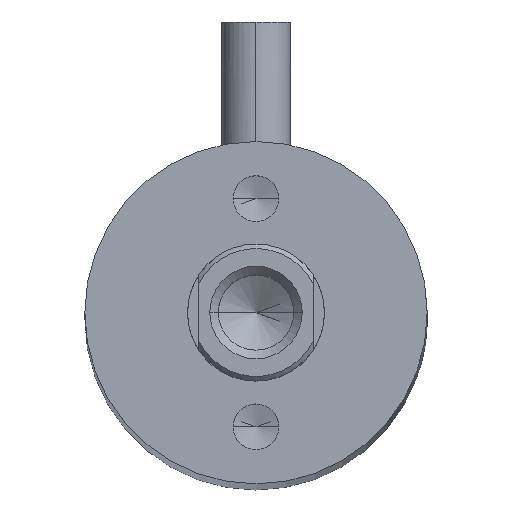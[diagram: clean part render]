
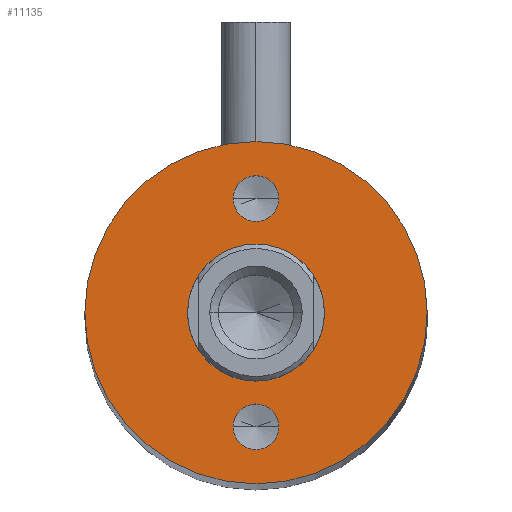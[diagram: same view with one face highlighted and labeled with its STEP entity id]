
A CAD part, top view. The second image highlights one B-rep face of the part: STEP entity #11135.
In plain terms, the highlighted planar face has unit normal (0, 0, 1).
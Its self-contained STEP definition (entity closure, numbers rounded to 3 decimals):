
#532 = ORIENTED_EDGE ( 'NONE', *, *, #24710, .T. ) ;
#1341 = CIRCLE ( 'NONE', #43665, 7.5 ) ;
#1565 = ORIENTED_EDGE ( 'NONE', *, *, #18459, .F. ) ;
#1574 = CIRCLE ( 'NONE', #14354, 1. ) ;
#2236 = EDGE_CURVE ( 'NONE', #5143, #49889, #16690, .T. ) ;
#3416 = DIRECTION ( 'NONE',  ( 0., 0., 1. ) ) ;
#4497 = CIRCLE ( 'NONE', #37046, 1. ) ;
#5143 = VERTEX_POINT ( 'NONE', #5696 ) ;
#5696 = CARTESIAN_POINT ( 'NONE',  ( -1., -5., 154.6 ) ) ;
#6661 = DIRECTION ( 'NONE',  ( 0., 0., 1. ) ) ;
#6890 = CARTESIAN_POINT ( 'NONE',  ( 0., 0., 154.6 ) ) ;
#8428 = VERTEX_POINT ( 'NONE', #13628 ) ;
#9244 = AXIS2_PLACEMENT_3D ( 'NONE', #31267, #15723, #23678 ) ;
#9525 = VERTEX_POINT ( 'NONE', #45778 ) ;
#10023 = ORIENTED_EDGE ( 'NONE', *, *, #39658, .T. ) ;
#10366 = FACE_OUTER_BOUND ( 'NONE', #38586, .T. ) ;
#11135 = ADVANCED_FACE ( 'NONE', ( #51199, #31326, #48722, #10366 ), #42815, .T. ) ;
#11192 = CARTESIAN_POINT ( 'NONE',  ( 0., 0., 154.6 ) ) ;
#11240 = CARTESIAN_POINT ( 'NONE',  ( -1., 5., 154.6 ) ) ;
#11960 = EDGE_LOOP ( 'NONE', ( #48771, #37679 ) ) ;
#13155 = EDGE_CURVE ( 'NONE', #9525, #8428, #39996, .T. ) ;
#13628 = CARTESIAN_POINT ( 'NONE',  ( 3., 0., 154.6 ) ) ;
#14354 = AXIS2_PLACEMENT_3D ( 'NONE', #27547, #27207, #23568 ) ;
#15181 = DIRECTION ( 'NONE',  ( 0., 0., 1. ) ) ;
#15723 = DIRECTION ( 'NONE',  ( 0., 0., 1. ) ) ;
#16508 = VERTEX_POINT ( 'NONE', #11240 ) ;
#16679 = CARTESIAN_POINT ( 'NONE',  ( 0., -5., 154.6 ) ) ;
#16690 = CIRCLE ( 'NONE', #34087, 1. ) ;
#17592 = DIRECTION ( 'NONE',  ( 1., 0., 0. ) ) ;
#18342 = CARTESIAN_POINT ( 'NONE',  ( -7.5, 0., 154.6 ) ) ;
#18392 = CARTESIAN_POINT ( 'NONE',  ( 0., -5., 154.6 ) ) ;
#18459 = EDGE_CURVE ( 'NONE', #16508, #33238, #1574, .T. ) ;
#18819 = DIRECTION ( 'NONE',  ( 0., 0., 1. ) ) ;
#19235 = AXIS2_PLACEMENT_3D ( 'NONE', #37472, #25905, #17592 ) ;
#20623 = DIRECTION ( 'NONE',  ( 0., 0., 1. ) ) ;
#21300 = ORIENTED_EDGE ( 'NONE', *, *, #13155, .F. ) ;
#22591 = DIRECTION ( 'NONE',  ( 1., 0., 0. ) ) ;
#22960 = CIRCLE ( 'NONE', #9244, 1. ) ;
#23568 = DIRECTION ( 'NONE',  ( 1., 0., 0. ) ) ;
#23659 = ORIENTED_EDGE ( 'NONE', *, *, #45142, .F. ) ;
#23678 = DIRECTION ( 'NONE',  ( 1., 0., 0. ) ) ;
#24710 = EDGE_CURVE ( 'NONE', #28201, #28193, #32970, .T. ) ;
#25277 = ORIENTED_EDGE ( 'NONE', *, *, #37458, .F. ) ;
#25905 = DIRECTION ( 'NONE',  ( 0., 0., 1. ) ) ;
#26212 = AXIS2_PLACEMENT_3D ( 'NONE', #50167, #18819, #38726 ) ;
#27207 = DIRECTION ( 'NONE',  ( 0., 0., 1. ) ) ;
#27547 = CARTESIAN_POINT ( 'NONE',  ( 0., 5., 154.6 ) ) ;
#28193 = VERTEX_POINT ( 'NONE', #18342 ) ;
#28201 = VERTEX_POINT ( 'NONE', #51043 ) ;
#30089 = EDGE_LOOP ( 'NONE', ( #21300, #23659 ) ) ;
#31267 = CARTESIAN_POINT ( 'NONE',  ( 0., 5., 154.6 ) ) ;
#31326 = FACE_BOUND ( 'NONE', #47994, .T. ) ;
#32206 = DIRECTION ( 'NONE',  ( 1., 0., 0. ) ) ;
#32970 = CIRCLE ( 'NONE', #26212, 7.5 ) ;
#33238 = VERTEX_POINT ( 'NONE', #49539 ) ;
#34087 = AXIS2_PLACEMENT_3D ( 'NONE', #18392, #6661, #46096 ) ;
#34408 = EDGE_CURVE ( 'NONE', #49889, #5143, #4497, .T. ) ;
#37046 = AXIS2_PLACEMENT_3D ( 'NONE', #16679, #20623, #32206 ) ;
#37458 = EDGE_CURVE ( 'NONE', #33238, #16508, #22960, .T. ) ;
#37472 = CARTESIAN_POINT ( 'NONE',  ( 0., 0., 154.6 ) ) ;
#37679 = ORIENTED_EDGE ( 'NONE', *, *, #2236, .F. ) ;
#38136 = AXIS2_PLACEMENT_3D ( 'NONE', #11192, #3416, #42984 ) ;
#38394 = CARTESIAN_POINT ( 'NONE',  ( 0., 0., 154.6 ) ) ;
#38586 = EDGE_LOOP ( 'NONE', ( #10023, #532 ) ) ;
#38726 = DIRECTION ( 'NONE',  ( 1., 0., 0. ) ) ;
#39658 = EDGE_CURVE ( 'NONE', #28193, #28201, #1341, .T. ) ;
#39996 = CIRCLE ( 'NONE', #19235, 3. ) ;
#42686 = CIRCLE ( 'NONE', #45852, 3. ) ;
#42815 = PLANE ( 'NONE',  #38136 ) ;
#42830 = DIRECTION ( 'NONE',  ( 0., 0., 1. ) ) ;
#42984 = DIRECTION ( 'NONE',  ( 1., 0., 0. ) ) ;
#43665 = AXIS2_PLACEMENT_3D ( 'NONE', #38394, #15181, #50851 ) ;
#45142 = EDGE_CURVE ( 'NONE', #8428, #9525, #42686, .T. ) ;
#45778 = CARTESIAN_POINT ( 'NONE',  ( -3., 0., 154.6 ) ) ;
#45852 = AXIS2_PLACEMENT_3D ( 'NONE', #6890, #42830, #22591 ) ;
#46096 = DIRECTION ( 'NONE',  ( 1., 0., 0. ) ) ;
#47994 = EDGE_LOOP ( 'NONE', ( #25277, #1565 ) ) ;
#48094 = CARTESIAN_POINT ( 'NONE',  ( 1., -5., 154.6 ) ) ;
#48722 = FACE_BOUND ( 'NONE', #30089, .T. ) ;
#48771 = ORIENTED_EDGE ( 'NONE', *, *, #34408, .F. ) ;
#49539 = CARTESIAN_POINT ( 'NONE',  ( 1., 5., 154.6 ) ) ;
#49889 = VERTEX_POINT ( 'NONE', #48094 ) ;
#50167 = CARTESIAN_POINT ( 'NONE',  ( 0., 0., 154.6 ) ) ;
#50851 = DIRECTION ( 'NONE',  ( 1., 0., 0. ) ) ;
#51043 = CARTESIAN_POINT ( 'NONE',  ( 7.5, 0., 154.6 ) ) ;
#51199 = FACE_BOUND ( 'NONE', #11960, .T. ) ;
